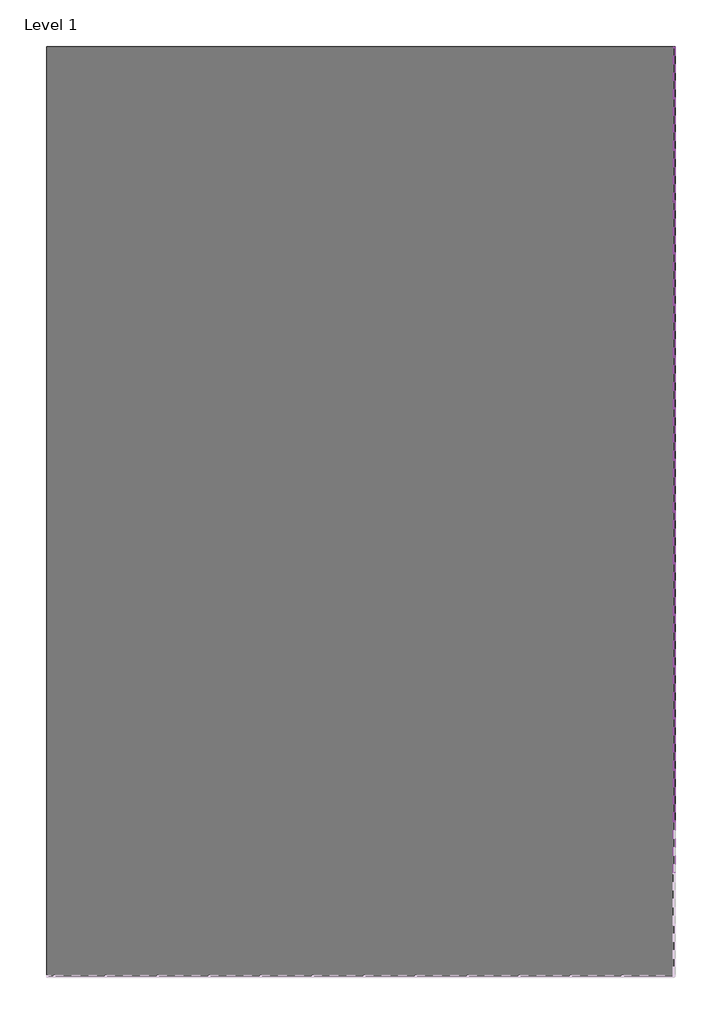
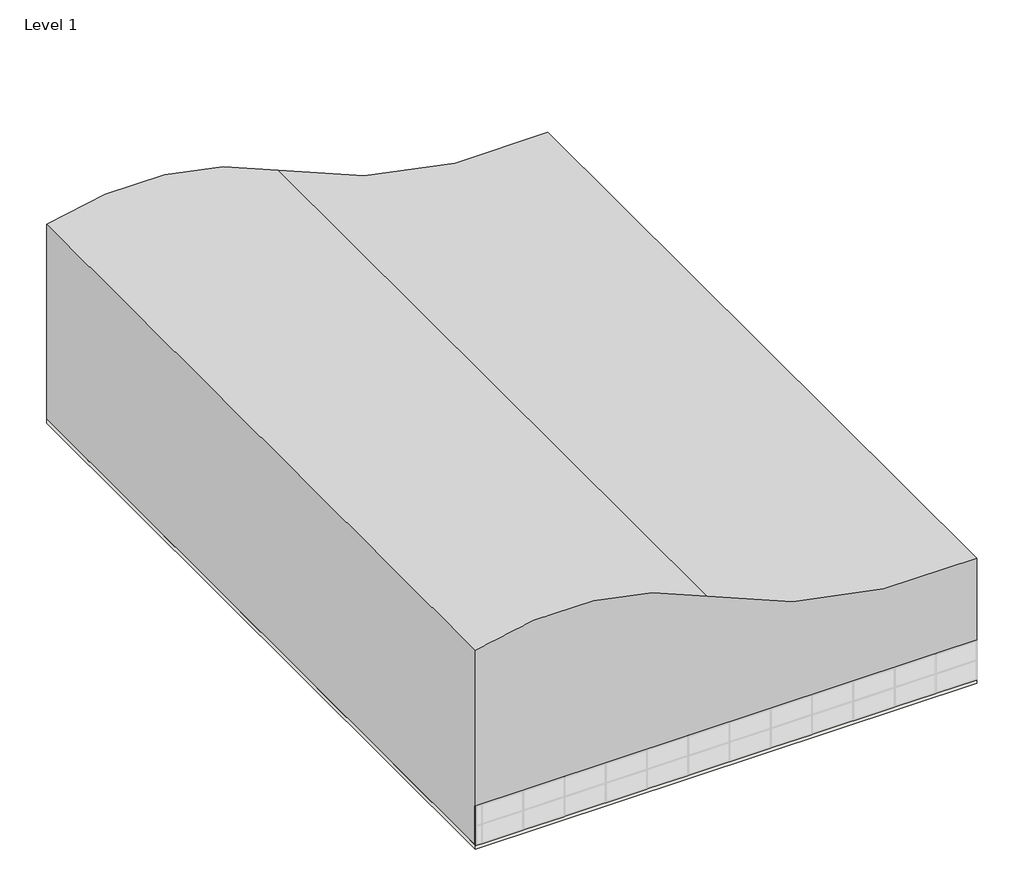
# One storey, part 2 of 2: 79 members, 30 plates, 1 proxy, 1 slab.
"""IFC4 building model written with IfcOpenShell, lengths in millimetres."""

from ifc_helpers import new_model, si_unit, point, frame, frame_2d, origin, place, context, project, spatial, polyline, circle_curve, trimmed, segment, composite_curve, outline, extrude, transform, mapped, element, save
from components import member_8cef0660, member_c65d5026, member_82905deb, member_db480205, member_d9b0607a, member_4491d118, system_panel_glazed_d57e1c1e, system_panel_glazed_3620f98e, system_panel_glazed_88acb840, system_panel_glazed_2a6c68b7

model = new_model("IFC4")

# Units and contexts
model_context = context("Model", 3, world=origin())
ifc_project = project(units=[si_unit("LENGTHUNIT", "METRE", prefix="MILLI")], contexts=[model_context])

# Site, building, storey
site = spatial("IfcSite", under=ifc_project)
building = spatial("IfcBuilding", under=site)
storey = spatial("IfcBuildingStorey", under=building, Name="Level 1", Elevation=0.0)

# Proxy
placement = place(None, origin())
element("IfcBuildingElementProxy", 1, Name="Family1 : Family1", ObjectType="Family1 : Family1", at=placement, inside=storey, context=model_context, shape_type="SweptSolid", body=[
    extrude(outline(composite_curve([segment(trimmed(circle_curve(frame_2d((44089.1499108, -10411.9456671)), 34807.5990296), [point((9448.8, -7003.8511466))], [point((13439.8944284, -26910.1906821))], True, "CARTESIAN"), True, "CONTINUOUS"), segment(trimmed(circle_curve(frame_2d((-6546.8940187, -37668.9163893)), 22698.4997582), [point((13439.8944284, -26910.1906821))], [point((15240.0, -44037.0511466))], False, "CARTESIAN"), True, "CONTINUOUS"), segment(polyline([(15240.0, -44037.0511466), (0.0, -44037.0511466), (0.0, -7003.8511466), (9448.8, -7003.8511466)]), True, "CONTINUOUS")], self_intersect=False)), frame((0.0, -42761.5611797, 0.0), z_axis=(0.0, 1.0, 0.0), x_axis=(0.0, 0.0, 1.0)), (0.0, 0.0, 1.0), 54864.0),
])

# Members
member_shape = member_8cef0660(model_context)
element("IfcMember", 2, ObjectType="Rectangular Mullion : 2.5\" x 5\" rectangular", at=placement, inside=storey, context=model_context, shape_type="MappedRepresentation", body=[
    mapped(member_shape, transform((-7003.8511466, -12313.3111797, 1524.0), x_axis=(0.0, 0.0, 1.0), y_axis=(1.0, 0.0, 0.0), z_axis=(0.0, 1.0, 0.0))),
])
element("IfcMember", 3, ObjectType="Rectangular Mullion : 2.5\" x 5\" rectangular", at=placement, inside=storey, context=model_context, shape_type="MappedRepresentation", body=[
    mapped(member_shape, transform((-7003.8511466, -9265.3111797, 1524.0), x_axis=(0.0, 0.0, 1.0), y_axis=(1.0, 0.0, 0.0), z_axis=(0.0, 1.0, 0.0))),
])
element("IfcMember", 4, ObjectType="Rectangular Mullion : 2.5\" x 5\" rectangular", at=placement, inside=storey, context=model_context, shape_type="MappedRepresentation", body=[
    mapped(member_shape, transform((-7003.8511466, -15361.3111797, 1524.0), x_axis=(0.0, 0.0, 1.0), y_axis=(1.0, 0.0, 0.0), z_axis=(0.0, 1.0, 0.0))),
])
element("IfcMember", 5, ObjectType="Rectangular Mullion : 2.5\" x 5\" rectangular", at=placement, inside=storey, context=model_context, shape_type="MappedRepresentation", body=[
    mapped(member_shape, transform((-7003.8511466, -6217.3111797, 1524.0), x_axis=(0.0, 0.0, 1.0), y_axis=(1.0, 0.0, 0.0), z_axis=(0.0, 1.0, 0.0))),
])
element("IfcMember", 6, ObjectType="Rectangular Mullion : 2.5\" x 5\" rectangular", at=placement, inside=storey, context=model_context, shape_type="MappedRepresentation", body=[
    mapped(member_shape, transform((-7003.8511466, -3169.3111797, 1524.0), x_axis=(0.0, 0.0, 1.0), y_axis=(1.0, 0.0, 0.0), z_axis=(0.0, 1.0, 0.0))),
])
element("IfcMember", 7, ObjectType="Rectangular Mullion : 2.5\" x 5\" rectangular", at=placement, inside=storey, context=model_context, shape_type="MappedRepresentation", body=[
    mapped(member_shape, transform((-7003.8511466, 5974.6888203, 1524.0), x_axis=(0.0, 0.0, 1.0), y_axis=(1.0, 0.0, 0.0), z_axis=(0.0, 1.0, 0.0))),
])
element("IfcMember", 8, ObjectType="Rectangular Mullion : 2.5\" x 5\" rectangular", at=placement, inside=storey, context=model_context, shape_type="MappedRepresentation", body=[
    mapped(member_shape, transform((-7003.8511466, 2926.6888203, 1524.0), x_axis=(0.0, 0.0, 1.0), y_axis=(1.0, 0.0, 0.0), z_axis=(0.0, 1.0, 0.0))),
])
element("IfcMember", 9, ObjectType="Rectangular Mullion : 2.5\" x 5\" rectangular", at=placement, inside=storey, context=model_context, shape_type="MappedRepresentation", body=[
    mapped(member_shape, transform((-7003.8511466, -121.3111797, 1524.0), x_axis=(0.0, 0.0, 1.0), y_axis=(1.0, 0.0, 0.0), z_axis=(0.0, 1.0, 0.0))),
])
element("IfcMember", 10, ObjectType="Rectangular Mullion : 2.5\" x 5\" rectangular", at=placement, inside=storey, context=model_context, shape_type="MappedRepresentation", body=[
    mapped(member_shape, transform((-7003.8511466, 9022.6888203, 1524.0), x_axis=(0.0, 0.0, 1.0), y_axis=(1.0, 0.0, 0.0), z_axis=(0.0, 1.0, 0.0))),
])
element("IfcMember", 11, ObjectType="Rectangular Mullion : 2.5\" x 5\" rectangular", at=placement, inside=storey, context=model_context, shape_type="MappedRepresentation", body=[
    mapped(member_shape, transform((-7003.8511466, -33649.3111797, 3048.0), x_axis=(0.0, 0.0, 1.0), y_axis=(1.0, 0.0, 0.0), z_axis=(0.0, 1.0, 0.0))),
])
element("IfcMember", 12, ObjectType="Rectangular Mullion : 2.5\" x 5\" rectangular", at=placement, inside=storey, context=model_context, shape_type="MappedRepresentation", body=[
    mapped(member_shape, transform((-7003.8511466, -30601.3111797, 3048.0), x_axis=(0.0, 0.0, 1.0), y_axis=(1.0, 0.0, 0.0), z_axis=(0.0, 1.0, 0.0))),
])
element("IfcMember", 13, ObjectType="Rectangular Mullion : 2.5\" x 5\" rectangular", at=placement, inside=storey, context=model_context, shape_type="MappedRepresentation", body=[
    mapped(member_shape, transform((-7003.8511466, -27553.3111797, 3048.0), x_axis=(0.0, 0.0, 1.0), y_axis=(1.0, 0.0, 0.0), z_axis=(0.0, 1.0, 0.0))),
])
element("IfcMember", 14, ObjectType="Rectangular Mullion : 2.5\" x 5\" rectangular", at=placement, inside=storey, context=model_context, shape_type="MappedRepresentation", body=[
    mapped(member_shape, transform((-7003.8511466, -24505.3111797, 3048.0), x_axis=(0.0, 0.0, 1.0), y_axis=(1.0, 0.0, 0.0), z_axis=(0.0, 1.0, 0.0))),
])
element("IfcMember", 15, ObjectType="Rectangular Mullion : 2.5\" x 5\" rectangular", at=placement, inside=storey, context=model_context, shape_type="MappedRepresentation", body=[
    mapped(member_shape, transform((-7003.8511466, -21457.3111797, 3048.0), x_axis=(0.0, 0.0, 1.0), y_axis=(1.0, 0.0, 0.0), z_axis=(0.0, 1.0, 0.0))),
])
element("IfcMember", 16, ObjectType="Rectangular Mullion : 2.5\" x 5\" rectangular", at=placement, inside=storey, context=model_context, shape_type="MappedRepresentation", body=[
    mapped(member_shape, transform((-7003.8511466, -18409.3111797, 3048.0), x_axis=(0.0, 0.0, 1.0), y_axis=(1.0, 0.0, 0.0), z_axis=(0.0, 1.0, 0.0))),
])
element("IfcMember", 17, ObjectType="Rectangular Mullion : 2.5\" x 5\" rectangular", at=placement, inside=storey, context=model_context, shape_type="MappedRepresentation", body=[
    mapped(member_shape, transform((-7003.8511466, -15361.3111797, 3048.0), x_axis=(0.0, 0.0, 1.0), y_axis=(1.0, 0.0, 0.0), z_axis=(0.0, 1.0, 0.0))),
])
element("IfcMember", 18, ObjectType="Rectangular Mullion : 2.5\" x 5\" rectangular", at=placement, inside=storey, context=model_context, shape_type="MappedRepresentation", body=[
    mapped(member_shape, transform((-7003.8511466, -12313.3111797, 3048.0), x_axis=(0.0, 0.0, 1.0), y_axis=(1.0, 0.0, 0.0), z_axis=(0.0, 1.0, 0.0))),
])
element("IfcMember", 19, ObjectType="Rectangular Mullion : 2.5\" x 5\" rectangular", at=placement, inside=storey, context=model_context, shape_type="MappedRepresentation", body=[
    mapped(member_shape, transform((-7003.8511466, -9265.3111797, 3048.0), x_axis=(0.0, 0.0, 1.0), y_axis=(1.0, 0.0, 0.0), z_axis=(0.0, 1.0, 0.0))),
])
element("IfcMember", 20, ObjectType="Rectangular Mullion : 2.5\" x 5\" rectangular", at=placement, inside=storey, context=model_context, shape_type="MappedRepresentation", body=[
    mapped(member_shape, transform((-7003.8511466, -6217.3111797, 3048.0), x_axis=(0.0, 0.0, 1.0), y_axis=(1.0, 0.0, 0.0), z_axis=(0.0, 1.0, 0.0))),
])
element("IfcMember", 21, ObjectType="Rectangular Mullion : 2.5\" x 5\" rectangular", at=placement, inside=storey, context=model_context, shape_type="MappedRepresentation", body=[
    mapped(member_shape, transform((-7003.8511466, -3169.3111797, 3048.0), x_axis=(0.0, 0.0, 1.0), y_axis=(1.0, 0.0, 0.0), z_axis=(0.0, 1.0, 0.0))),
])
element("IfcMember", 22, ObjectType="Rectangular Mullion : 2.5\" x 5\" rectangular", at=placement, inside=storey, context=model_context, shape_type="MappedRepresentation", body=[
    mapped(member_shape, transform((-7003.8511466, -121.3111797, 3048.0), x_axis=(0.0, 0.0, 1.0), y_axis=(1.0, 0.0, 0.0), z_axis=(0.0, 1.0, 0.0))),
])
element("IfcMember", 23, ObjectType="Rectangular Mullion : 2.5\" x 5\" rectangular", at=placement, inside=storey, context=model_context, shape_type="MappedRepresentation", body=[
    mapped(member_shape, transform((-7003.8511466, 2926.6888203, 3048.0), x_axis=(0.0, 0.0, 1.0), y_axis=(1.0, 0.0, 0.0), z_axis=(0.0, 1.0, 0.0))),
])
element("IfcMember", 24, ObjectType="Rectangular Mullion : 2.5\" x 5\" rectangular", at=placement, inside=storey, context=model_context, shape_type="MappedRepresentation", body=[
    mapped(member_shape, transform((-7003.8511466, 5974.6888203, 3048.0), x_axis=(0.0, 0.0, 1.0), y_axis=(1.0, 0.0, 0.0), z_axis=(0.0, 1.0, 0.0))),
])
element("IfcMember", 25, ObjectType="Rectangular Mullion : 2.5\" x 5\" rectangular", at=placement, inside=storey, context=model_context, shape_type="MappedRepresentation", body=[
    mapped(member_shape, transform((-7003.8511466, 9022.6888203, 3048.0), x_axis=(0.0, 0.0, 1.0), y_axis=(1.0, 0.0, 0.0), z_axis=(0.0, 1.0, 0.0))),
])
element("IfcMember", 26, ObjectType="Rectangular Mullion : 2.5\" x 5\" rectangular", at=placement, inside=storey, context=model_context, shape_type="MappedRepresentation", body=[
    mapped(member_shape, transform((-7003.8511466, -33649.3111797, 1524.0), x_axis=(0.0, 0.0, 1.0), y_axis=(1.0, 0.0, 0.0), z_axis=(0.0, 1.0, 0.0))),
])
element("IfcMember", 27, ObjectType="Rectangular Mullion : 2.5\" x 5\" rectangular", at=placement, inside=storey, context=model_context, shape_type="MappedRepresentation", body=[
    mapped(member_shape, transform((-7003.8511466, -30601.3111797, 1524.0), x_axis=(0.0, 0.0, 1.0), y_axis=(1.0, 0.0, 0.0), z_axis=(0.0, 1.0, 0.0))),
])
element("IfcMember", 28, ObjectType="Rectangular Mullion : 2.5\" x 5\" rectangular", at=placement, inside=storey, context=model_context, shape_type="MappedRepresentation", body=[
    mapped(member_shape, transform((-7003.8511466, -27553.3111797, 1524.0), x_axis=(0.0, 0.0, 1.0), y_axis=(1.0, 0.0, 0.0), z_axis=(0.0, 1.0, 0.0))),
])
element("IfcMember", 29, ObjectType="Rectangular Mullion : 2.5\" x 5\" rectangular", at=placement, inside=storey, context=model_context, shape_type="MappedRepresentation", body=[
    mapped(member_shape, transform((-7003.8511466, -24505.3111797, 1524.0), x_axis=(0.0, 0.0, 1.0), y_axis=(1.0, 0.0, 0.0), z_axis=(0.0, 1.0, 0.0))),
])
element("IfcMember", 30, ObjectType="Rectangular Mullion : 2.5\" x 5\" rectangular", at=placement, inside=storey, context=model_context, shape_type="MappedRepresentation", body=[
    mapped(member_shape, transform((-7003.8511466, -21457.3111797, 1524.0), x_axis=(0.0, 0.0, 1.0), y_axis=(1.0, 0.0, 0.0), z_axis=(0.0, 1.0, 0.0))),
])
element("IfcMember", 31, ObjectType="Rectangular Mullion : 2.5\" x 5\" rectangular", at=placement, inside=storey, context=model_context, shape_type="MappedRepresentation", body=[
    mapped(member_shape, transform((-7003.8511466, -18409.3111797, 1524.0), x_axis=(0.0, 0.0, 1.0), y_axis=(1.0, 0.0, 0.0), z_axis=(0.0, 1.0, 0.0))),
])
member_2_shape = member_c65d5026(model_context)
element("IfcMember", 32, ObjectType="Rectangular Mullion : 2.5\" x 5\" rectangular", at=placement, inside=storey, context=model_context, shape_type="MappedRepresentation", body=[
    mapped(member_2_shape, transform((-7003.8511466, 12038.9388203, 1524.0), x_axis=(0.0, 0.0, 1.0), y_axis=(1.0, 0.0, 0.0), z_axis=(0.0, 1.0, 0.0))),
])
element("IfcMember", 33, ObjectType="Rectangular Mullion : 2.5\" x 5\" rectangular", at=placement, inside=storey, context=model_context, shape_type="MappedRepresentation", body=[
    mapped(member_2_shape, transform((-7003.8511466, 12038.9388203, 3048.0), x_axis=(0.0, 0.0, 1.0), y_axis=(1.0, 0.0, 0.0), z_axis=(0.0, 1.0, 0.0))),
])
member_3_shape = member_82905deb(model_context)
element("IfcMember", 34, ObjectType="Rectangular Mullion : 2.5\" x 5\" rectangular", at=placement, inside=storey, context=model_context, shape_type="MappedRepresentation", body=[
    mapped(member_3_shape, transform((-7003.8511466, -18377.5611797, 3048.0), x_axis=(0.0, -1.0, 0.0), y_axis=(1.0, 0.0, 0.0), z_axis=(0.0, 0.0, 1.0))),
])
element("IfcMember", 35, ObjectType="Rectangular Mullion : 2.5\" x 5\" rectangular", at=placement, inside=storey, context=model_context, shape_type="MappedRepresentation", body=[
    mapped(member_3_shape, transform((-7003.8511466, -15329.5611797, 3048.0), x_axis=(0.0, -1.0, 0.0), y_axis=(1.0, 0.0, 0.0), z_axis=(0.0, 0.0, 1.0))),
])
element("IfcMember", 36, ObjectType="Rectangular Mullion : 2.5\" x 5\" rectangular", at=placement, inside=storey, context=model_context, shape_type="MappedRepresentation", body=[
    mapped(member_3_shape, transform((-7003.8511466, -12281.5611797, 3048.0), x_axis=(0.0, -1.0, 0.0), y_axis=(1.0, 0.0, 0.0), z_axis=(0.0, 0.0, 1.0))),
])
element("IfcMember", 37, ObjectType="Rectangular Mullion : 2.5\" x 5\" rectangular", at=placement, inside=storey, context=model_context, shape_type="MappedRepresentation", body=[
    mapped(member_3_shape, transform((-7003.8511466, -9233.5611797, 3048.0), x_axis=(0.0, -1.0, 0.0), y_axis=(1.0, 0.0, 0.0), z_axis=(0.0, 0.0, 1.0))),
])
element("IfcMember", 38, ObjectType="Rectangular Mullion : 2.5\" x 5\" rectangular", at=placement, inside=storey, context=model_context, shape_type="MappedRepresentation", body=[
    mapped(member_3_shape, transform((-7003.8511466, -6185.5611797, 3048.0), x_axis=(0.0, -1.0, 0.0), y_axis=(1.0, 0.0, 0.0), z_axis=(0.0, 0.0, 1.0))),
])
element("IfcMember", 39, ObjectType="Rectangular Mullion : 2.5\" x 5\" rectangular", at=placement, inside=storey, context=model_context, shape_type="MappedRepresentation", body=[
    mapped(member_3_shape, transform((-7003.8511466, -3137.5611797, 3048.0), x_axis=(0.0, -1.0, 0.0), y_axis=(1.0, 0.0, 0.0), z_axis=(0.0, 0.0, 1.0))),
])
element("IfcMember", 40, ObjectType="Rectangular Mullion : 2.5\" x 5\" rectangular", at=placement, inside=storey, context=model_context, shape_type="MappedRepresentation", body=[
    mapped(member_3_shape, transform((-7003.8511466, -89.5611797, 3048.0), x_axis=(0.0, -1.0, 0.0), y_axis=(1.0, 0.0, 0.0), z_axis=(0.0, 0.0, 1.0))),
])
element("IfcMember", 41, ObjectType="Rectangular Mullion : 2.5\" x 5\" rectangular", at=placement, inside=storey, context=model_context, shape_type="MappedRepresentation", body=[
    mapped(member_3_shape, transform((-7003.8511466, 2958.4388203, 3048.0), x_axis=(0.0, -1.0, 0.0), y_axis=(1.0, 0.0, 0.0), z_axis=(0.0, 0.0, 1.0))),
])
element("IfcMember", 42, ObjectType="Rectangular Mullion : 2.5\" x 5\" rectangular", at=placement, inside=storey, context=model_context, shape_type="MappedRepresentation", body=[
    mapped(member_3_shape, transform((-7003.8511466, 6006.4388203, 3048.0), x_axis=(0.0, -1.0, 0.0), y_axis=(1.0, 0.0, 0.0), z_axis=(0.0, 0.0, 1.0))),
])
element("IfcMember", 43, ObjectType="Rectangular Mullion : 2.5\" x 5\" rectangular", at=placement, inside=storey, context=model_context, shape_type="MappedRepresentation", body=[
    mapped(member_3_shape, transform((-7003.8511466, 9054.4388203, 3048.0), x_axis=(0.0, -1.0, 0.0), y_axis=(1.0, 0.0, 0.0), z_axis=(0.0, 0.0, 1.0))),
])
element("IfcMember", 44, ObjectType="Rectangular Mullion : 2.5\" x 5\" rectangular", at=placement, inside=storey, context=model_context, shape_type="MappedRepresentation", body=[
    mapped(member_3_shape, transform((-7003.8511466, -30569.5611797, 3048.0), x_axis=(0.0, -1.0, 0.0), y_axis=(1.0, 0.0, 0.0), z_axis=(0.0, 0.0, 1.0))),
])
element("IfcMember", 45, ObjectType="Rectangular Mullion : 2.5\" x 5\" rectangular", at=placement, inside=storey, context=model_context, shape_type="MappedRepresentation", body=[
    mapped(member_3_shape, transform((-7003.8511466, -27521.5611797, 3048.0), x_axis=(0.0, -1.0, 0.0), y_axis=(1.0, 0.0, 0.0), z_axis=(0.0, 0.0, 1.0))),
])
element("IfcMember", 46, ObjectType="Rectangular Mullion : 2.5\" x 5\" rectangular", at=placement, inside=storey, context=model_context, shape_type="MappedRepresentation", body=[
    mapped(member_3_shape, transform((-7003.8511466, -24473.5611797, 3048.0), x_axis=(0.0, -1.0, 0.0), y_axis=(1.0, 0.0, 0.0), z_axis=(0.0, 0.0, 1.0))),
])
element("IfcMember", 47, ObjectType="Rectangular Mullion : 2.5\" x 5\" rectangular", at=placement, inside=storey, context=model_context, shape_type="MappedRepresentation", body=[
    mapped(member_3_shape, transform((-7003.8511466, -21425.5611797, 3048.0), x_axis=(0.0, -1.0, 0.0), y_axis=(1.0, 0.0, 0.0), z_axis=(0.0, 0.0, 1.0))),
])
element("IfcMember", 48, ObjectType="Rectangular Mullion : 2.5\" x 5\" rectangular", at=placement, inside=storey, context=model_context, shape_type="MappedRepresentation", body=[
    mapped(member_3_shape, transform((-7003.8511466, -33617.5611797, 3048.0), x_axis=(0.0, -1.0, 0.0), y_axis=(1.0, 0.0, 0.0), z_axis=(0.0, 0.0, 1.0))),
])
element("IfcMember", 49, ObjectType="Rectangular Mullion : 2.5\" x 5\" rectangular", at=placement, inside=storey, context=model_context, shape_type="MappedRepresentation", body=[
    mapped(member_3_shape, transform((-7003.8511466, -18377.5611797, 1524.0), x_axis=(0.0, -1.0, 0.0), y_axis=(1.0, 0.0, 0.0), z_axis=(0.0, 0.0, 1.0))),
])
element("IfcMember", 50, ObjectType="Rectangular Mullion : 2.5\" x 5\" rectangular", at=placement, inside=storey, context=model_context, shape_type="MappedRepresentation", body=[
    mapped(member_3_shape, transform((-7003.8511466, -15329.5611797, 1524.0), x_axis=(0.0, -1.0, 0.0), y_axis=(1.0, 0.0, 0.0), z_axis=(0.0, 0.0, 1.0))),
])
element("IfcMember", 51, ObjectType="Rectangular Mullion : 2.5\" x 5\" rectangular", at=placement, inside=storey, context=model_context, shape_type="MappedRepresentation", body=[
    mapped(member_3_shape, transform((-7003.8511466, -12281.5611797, 1524.0), x_axis=(0.0, -1.0, 0.0), y_axis=(1.0, 0.0, 0.0), z_axis=(0.0, 0.0, 1.0))),
])
element("IfcMember", 52, ObjectType="Rectangular Mullion : 2.5\" x 5\" rectangular", at=placement, inside=storey, context=model_context, shape_type="MappedRepresentation", body=[
    mapped(member_3_shape, transform((-7003.8511466, -9233.5611797, 1524.0), x_axis=(0.0, -1.0, 0.0), y_axis=(1.0, 0.0, 0.0), z_axis=(0.0, 0.0, 1.0))),
])
element("IfcMember", 53, ObjectType="Rectangular Mullion : 2.5\" x 5\" rectangular", at=placement, inside=storey, context=model_context, shape_type="MappedRepresentation", body=[
    mapped(member_3_shape, transform((-7003.8511466, -6185.5611797, 1524.0), x_axis=(0.0, -1.0, 0.0), y_axis=(1.0, 0.0, 0.0), z_axis=(0.0, 0.0, 1.0))),
])
element("IfcMember", 54, ObjectType="Rectangular Mullion : 2.5\" x 5\" rectangular", at=placement, inside=storey, context=model_context, shape_type="MappedRepresentation", body=[
    mapped(member_3_shape, transform((-7003.8511466, -3137.5611797, 1524.0), x_axis=(0.0, -1.0, 0.0), y_axis=(1.0, 0.0, 0.0), z_axis=(0.0, 0.0, 1.0))),
])
element("IfcMember", 55, ObjectType="Rectangular Mullion : 2.5\" x 5\" rectangular", at=placement, inside=storey, context=model_context, shape_type="MappedRepresentation", body=[
    mapped(member_3_shape, transform((-7003.8511466, -89.5611797, 1524.0), x_axis=(0.0, -1.0, 0.0), y_axis=(1.0, 0.0, 0.0), z_axis=(0.0, 0.0, 1.0))),
])
element("IfcMember", 56, ObjectType="Rectangular Mullion : 2.5\" x 5\" rectangular", at=placement, inside=storey, context=model_context, shape_type="MappedRepresentation", body=[
    mapped(member_3_shape, transform((-7003.8511466, 2958.4388203, 1524.0), x_axis=(0.0, -1.0, 0.0), y_axis=(1.0, 0.0, 0.0), z_axis=(0.0, 0.0, 1.0))),
])
element("IfcMember", 57, ObjectType="Rectangular Mullion : 2.5\" x 5\" rectangular", at=placement, inside=storey, context=model_context, shape_type="MappedRepresentation", body=[
    mapped(member_3_shape, transform((-7003.8511466, 6006.4388203, 1524.0), x_axis=(0.0, -1.0, 0.0), y_axis=(1.0, 0.0, 0.0), z_axis=(0.0, 0.0, 1.0))),
])
element("IfcMember", 58, ObjectType="Rectangular Mullion : 2.5\" x 5\" rectangular", at=placement, inside=storey, context=model_context, shape_type="MappedRepresentation", body=[
    mapped(member_3_shape, transform((-7003.8511466, 9054.4388203, 1524.0), x_axis=(0.0, -1.0, 0.0), y_axis=(1.0, 0.0, 0.0), z_axis=(0.0, 0.0, 1.0))),
])
element("IfcMember", 59, ObjectType="Rectangular Mullion : 2.5\" x 5\" rectangular", at=placement, inside=storey, context=model_context, shape_type="MappedRepresentation", body=[
    mapped(member_3_shape, transform((-7003.8511466, -30569.5611797, 1524.0), x_axis=(0.0, -1.0, 0.0), y_axis=(1.0, 0.0, 0.0), z_axis=(0.0, 0.0, 1.0))),
])
element("IfcMember", 60, ObjectType="Rectangular Mullion : 2.5\" x 5\" rectangular", at=placement, inside=storey, context=model_context, shape_type="MappedRepresentation", body=[
    mapped(member_3_shape, transform((-7003.8511466, -27521.5611797, 1524.0), x_axis=(0.0, -1.0, 0.0), y_axis=(1.0, 0.0, 0.0), z_axis=(0.0, 0.0, 1.0))),
])
element("IfcMember", 61, ObjectType="Rectangular Mullion : 2.5\" x 5\" rectangular", at=placement, inside=storey, context=model_context, shape_type="MappedRepresentation", body=[
    mapped(member_3_shape, transform((-7003.8511466, -24473.5611797, 1524.0), x_axis=(0.0, -1.0, 0.0), y_axis=(1.0, 0.0, 0.0), z_axis=(0.0, 0.0, 1.0))),
])
element("IfcMember", 62, ObjectType="Rectangular Mullion : 2.5\" x 5\" rectangular", at=placement, inside=storey, context=model_context, shape_type="MappedRepresentation", body=[
    mapped(member_3_shape, transform((-7003.8511466, -21425.5611797, 1524.0), x_axis=(0.0, -1.0, 0.0), y_axis=(1.0, 0.0, 0.0), z_axis=(0.0, 0.0, 1.0))),
])
element("IfcMember", 63, ObjectType="Rectangular Mullion : 2.5\" x 5\" rectangular", at=placement, inside=storey, context=model_context, shape_type="MappedRepresentation", body=[
    mapped(member_3_shape, transform((-7003.8511466, -33617.5611797, 1524.0), x_axis=(0.0, -1.0, 0.0), y_axis=(1.0, 0.0, 0.0), z_axis=(0.0, 0.0, 1.0))),
])
member_4_shape = member_db480205(model_context)
element("IfcMember", 64, ObjectType="Rectangular Mullion : 2.5\" x 5\" rectangular", at=placement, inside=storey, context=model_context, shape_type="MappedRepresentation", body=[
    mapped(member_4_shape, transform((-7003.8511466, -33585.8111797, 0.0), x_axis=(0.0, 0.0, -1.0), y_axis=(1.0, 0.0, 0.0), z_axis=(0.0, -1.0, 0.0))),
])
element("IfcMember", 65, ObjectType="Rectangular Mullion : 2.5\" x 5\" rectangular", at=placement, inside=storey, context=model_context, shape_type="MappedRepresentation", body=[
    mapped(member_4_shape, transform((-7003.8511466, -30537.8111797, 0.0), x_axis=(0.0, 0.0, -1.0), y_axis=(1.0, 0.0, 0.0), z_axis=(0.0, -1.0, 0.0))),
])
element("IfcMember", 66, ObjectType="Rectangular Mullion : 2.5\" x 5\" rectangular", at=placement, inside=storey, context=model_context, shape_type="MappedRepresentation", body=[
    mapped(member_4_shape, transform((-7003.8511466, -27489.8111797, 0.0), x_axis=(0.0, 0.0, -1.0), y_axis=(1.0, 0.0, 0.0), z_axis=(0.0, -1.0, 0.0))),
])
element("IfcMember", 67, ObjectType="Rectangular Mullion : 2.5\" x 5\" rectangular", at=placement, inside=storey, context=model_context, shape_type="MappedRepresentation", body=[
    mapped(member_4_shape, transform((-7003.8511466, -24441.8111797, 0.0), x_axis=(0.0, 0.0, -1.0), y_axis=(1.0, 0.0, 0.0), z_axis=(0.0, -1.0, 0.0))),
])
element("IfcMember", 68, ObjectType="Rectangular Mullion : 2.5\" x 5\" rectangular", at=placement, inside=storey, context=model_context, shape_type="MappedRepresentation", body=[
    mapped(member_4_shape, transform((-7003.8511466, -21393.8111797, 0.0), x_axis=(0.0, 0.0, -1.0), y_axis=(1.0, 0.0, 0.0), z_axis=(0.0, -1.0, 0.0))),
])
element("IfcMember", 69, ObjectType="Rectangular Mullion : 2.5\" x 5\" rectangular", at=placement, inside=storey, context=model_context, shape_type="MappedRepresentation", body=[
    mapped(member_4_shape, transform((-7003.8511466, -18345.8111797, 0.0), x_axis=(0.0, 0.0, -1.0), y_axis=(1.0, 0.0, 0.0), z_axis=(0.0, -1.0, 0.0))),
])
element("IfcMember", 70, ObjectType="Rectangular Mullion : 2.5\" x 5\" rectangular", at=placement, inside=storey, context=model_context, shape_type="MappedRepresentation", body=[
    mapped(member_4_shape, transform((-7003.8511466, -15297.8111797, 0.0), x_axis=(0.0, 0.0, -1.0), y_axis=(1.0, 0.0, 0.0), z_axis=(0.0, -1.0, 0.0))),
])
element("IfcMember", 71, ObjectType="Rectangular Mullion : 2.5\" x 5\" rectangular", at=placement, inside=storey, context=model_context, shape_type="MappedRepresentation", body=[
    mapped(member_4_shape, transform((-7003.8511466, -12249.8111797, 0.0), x_axis=(0.0, 0.0, -1.0), y_axis=(1.0, 0.0, 0.0), z_axis=(0.0, -1.0, 0.0))),
])
element("IfcMember", 72, ObjectType="Rectangular Mullion : 2.5\" x 5\" rectangular", at=placement, inside=storey, context=model_context, shape_type="MappedRepresentation", body=[
    mapped(member_4_shape, transform((-7003.8511466, -9201.8111797, 0.0), x_axis=(0.0, 0.0, -1.0), y_axis=(1.0, 0.0, 0.0), z_axis=(0.0, -1.0, 0.0))),
])
element("IfcMember", 73, ObjectType="Rectangular Mullion : 2.5\" x 5\" rectangular", at=placement, inside=storey, context=model_context, shape_type="MappedRepresentation", body=[
    mapped(member_4_shape, transform((-7003.8511466, -6153.8111797, 0.0), x_axis=(0.0, 0.0, -1.0), y_axis=(1.0, 0.0, 0.0), z_axis=(0.0, -1.0, 0.0))),
])
element("IfcMember", 74, ObjectType="Rectangular Mullion : 2.5\" x 5\" rectangular", at=placement, inside=storey, context=model_context, shape_type="MappedRepresentation", body=[
    mapped(member_4_shape, transform((-7003.8511466, -3105.8111797, 0.0), x_axis=(0.0, 0.0, -1.0), y_axis=(1.0, 0.0, 0.0), z_axis=(0.0, -1.0, 0.0))),
])
element("IfcMember", 75, ObjectType="Rectangular Mullion : 2.5\" x 5\" rectangular", at=placement, inside=storey, context=model_context, shape_type="MappedRepresentation", body=[
    mapped(member_4_shape, transform((-7003.8511466, -57.8111797, 0.0), x_axis=(0.0, 0.0, -1.0), y_axis=(1.0, 0.0, 0.0), z_axis=(0.0, -1.0, 0.0))),
])
element("IfcMember", 76, ObjectType="Rectangular Mullion : 2.5\" x 5\" rectangular", at=placement, inside=storey, context=model_context, shape_type="MappedRepresentation", body=[
    mapped(member_4_shape, transform((-7003.8511466, 2990.1888203, 0.0), x_axis=(0.0, 0.0, -1.0), y_axis=(1.0, 0.0, 0.0), z_axis=(0.0, -1.0, 0.0))),
])
element("IfcMember", 77, ObjectType="Rectangular Mullion : 2.5\" x 5\" rectangular", at=placement, inside=storey, context=model_context, shape_type="MappedRepresentation", body=[
    mapped(member_4_shape, transform((-7003.8511466, 6038.1888203, 0.0), x_axis=(0.0, 0.0, -1.0), y_axis=(1.0, 0.0, 0.0), z_axis=(0.0, -1.0, 0.0))),
])
member_5_shape = member_d9b0607a(model_context)
element("IfcMember", 78, ObjectType="Rectangular Mullion : 2.5\" x 5\" rectangular", at=placement, inside=storey, context=model_context, shape_type="MappedRepresentation", body=[
    mapped(member_5_shape, transform((-7003.8511466, 9086.1888203, 0.0), x_axis=(0.0, 0.0, -1.0), y_axis=(1.0, 0.0, 0.0), z_axis=(0.0, -1.0, 0.0))),
])
member_6_shape = member_4491d118(model_context)
element("IfcMember", 79, ObjectType="Rectangular Mullion : 2.5\" x 5\" rectangular", at=placement, inside=storey, context=model_context, shape_type="MappedRepresentation", body=[
    mapped(member_6_shape, transform((-7003.8511466, 12102.4388203, 1524.0), x_axis=(0.0, 1.0, 0.0), y_axis=(1.0, 0.0, 0.0), z_axis=(0.0, 0.0, -1.0))),
])
element("IfcMember", 80, ObjectType="Rectangular Mullion : 2.5\" x 5\" rectangular", at=placement, inside=storey, context=model_context, shape_type="MappedRepresentation", body=[
    mapped(member_6_shape, transform((-7003.8511466, 12102.4388203, 0.0), x_axis=(0.0, 1.0, 0.0), y_axis=(1.0, 0.0, 0.0), z_axis=(0.0, 0.0, -1.0))),
])

# Plates
system_panel_glazed_shape = system_panel_glazed_d57e1c1e(model_context)
element("IfcPlate", 81, ObjectType="System Panel : Glazed", at=placement, inside=storey, context=model_context, shape_type="MappedRepresentation", body=[
    mapped(system_panel_glazed_shape, transform((-7003.8511466, 10562.5638203, 63.5), x_axis=(0.0, -1.0, 0.0), y_axis=(1.0, 0.0, 0.0), z_axis=(0.0, 0.0, 1.0))),
])
system_panel_glazed_2_shape = system_panel_glazed_3620f98e(model_context)
element("IfcPlate", 82, ObjectType="System Panel : Glazed", at=placement, inside=storey, context=model_context, shape_type="MappedRepresentation", body=[
    mapped(system_panel_glazed_2_shape, transform((-7003.8511466, 7530.4388203, 63.5), x_axis=(0.0, -1.0, 0.0), y_axis=(1.0, 0.0, 0.0), z_axis=(0.0, 0.0, 1.0))),
])
element("IfcPlate", 83, ObjectType="System Panel : Glazed", at=placement, inside=storey, context=model_context, shape_type="MappedRepresentation", body=[
    mapped(system_panel_glazed_2_shape, transform((-7003.8511466, 4482.4388203, 63.5), x_axis=(0.0, -1.0, 0.0), y_axis=(1.0, 0.0, 0.0), z_axis=(0.0, 0.0, 1.0))),
])
element("IfcPlate", 84, ObjectType="System Panel : Glazed", at=placement, inside=storey, context=model_context, shape_type="MappedRepresentation", body=[
    mapped(system_panel_glazed_2_shape, transform((-7003.8511466, 1434.4388203, 63.5), x_axis=(0.0, -1.0, 0.0), y_axis=(1.0, 0.0, 0.0), z_axis=(0.0, 0.0, 1.0))),
])
element("IfcPlate", 85, ObjectType="System Panel : Glazed", at=placement, inside=storey, context=model_context, shape_type="MappedRepresentation", body=[
    mapped(system_panel_glazed_2_shape, transform((-7003.8511466, -1613.5611797, 63.5), x_axis=(0.0, -1.0, 0.0), y_axis=(1.0, 0.0, 0.0), z_axis=(0.0, 0.0, 1.0))),
])
element("IfcPlate", 86, ObjectType="System Panel : Glazed", at=placement, inside=storey, context=model_context, shape_type="MappedRepresentation", body=[
    mapped(system_panel_glazed_2_shape, transform((-7003.8511466, -4661.5611797, 63.5), x_axis=(0.0, -1.0, 0.0), y_axis=(1.0, 0.0, 0.0), z_axis=(0.0, 0.0, 1.0))),
])
element("IfcPlate", 87, ObjectType="System Panel : Glazed", at=placement, inside=storey, context=model_context, shape_type="MappedRepresentation", body=[
    mapped(system_panel_glazed_2_shape, transform((-7003.8511466, -7709.5611797, 63.5), x_axis=(0.0, -1.0, 0.0), y_axis=(1.0, 0.0, 0.0), z_axis=(0.0, 0.0, 1.0))),
])
element("IfcPlate", 88, ObjectType="System Panel : Glazed", at=placement, inside=storey, context=model_context, shape_type="MappedRepresentation", body=[
    mapped(system_panel_glazed_2_shape, transform((-7003.8511466, -10757.5611797, 63.5), x_axis=(0.0, -1.0, 0.0), y_axis=(1.0, 0.0, 0.0), z_axis=(0.0, 0.0, 1.0))),
])
element("IfcPlate", 89, ObjectType="System Panel : Glazed", at=placement, inside=storey, context=model_context, shape_type="MappedRepresentation", body=[
    mapped(system_panel_glazed_2_shape, transform((-7003.8511466, -13805.5611797, 63.5), x_axis=(0.0, -1.0, 0.0), y_axis=(1.0, 0.0, 0.0), z_axis=(0.0, 0.0, 1.0))),
])
element("IfcPlate", 90, ObjectType="System Panel : Glazed", at=placement, inside=storey, context=model_context, shape_type="MappedRepresentation", body=[
    mapped(system_panel_glazed_2_shape, transform((-7003.8511466, -16853.5611797, 63.5), x_axis=(0.0, -1.0, 0.0), y_axis=(1.0, 0.0, 0.0), z_axis=(0.0, 0.0, 1.0))),
])
element("IfcPlate", 91, ObjectType="System Panel : Glazed", at=placement, inside=storey, context=model_context, shape_type="MappedRepresentation", body=[
    mapped(system_panel_glazed_2_shape, transform((-7003.8511466, -19901.5611797, 63.5), x_axis=(0.0, -1.0, 0.0), y_axis=(1.0, 0.0, 0.0), z_axis=(0.0, 0.0, 1.0))),
])
element("IfcPlate", 92, ObjectType="System Panel : Glazed", at=placement, inside=storey, context=model_context, shape_type="MappedRepresentation", body=[
    mapped(system_panel_glazed_2_shape, transform((-7003.8511466, -22949.5611797, 63.5), x_axis=(0.0, -1.0, 0.0), y_axis=(1.0, 0.0, 0.0), z_axis=(0.0, 0.0, 1.0))),
])
element("IfcPlate", 93, ObjectType="System Panel : Glazed", at=placement, inside=storey, context=model_context, shape_type="MappedRepresentation", body=[
    mapped(system_panel_glazed_2_shape, transform((-7003.8511466, -25997.5611797, 63.5), x_axis=(0.0, -1.0, 0.0), y_axis=(1.0, 0.0, 0.0), z_axis=(0.0, 0.0, 1.0))),
])
element("IfcPlate", 94, ObjectType="System Panel : Glazed", at=placement, inside=storey, context=model_context, shape_type="MappedRepresentation", body=[
    mapped(system_panel_glazed_2_shape, transform((-7003.8511466, -29045.5611797, 63.5), x_axis=(0.0, -1.0, 0.0), y_axis=(1.0, 0.0, 0.0), z_axis=(0.0, 0.0, 1.0))),
])
element("IfcPlate", 95, ObjectType="System Panel : Glazed", at=placement, inside=storey, context=model_context, shape_type="MappedRepresentation", body=[
    mapped(system_panel_glazed_2_shape, transform((-7003.8511466, -32093.5611797, 63.5), x_axis=(0.0, -1.0, 0.0), y_axis=(1.0, 0.0, 0.0), z_axis=(0.0, 0.0, 1.0))),
])
system_panel_glazed_3_shape = system_panel_glazed_88acb840(model_context)
element("IfcPlate", 96, ObjectType="System Panel : Glazed", at=placement, inside=storey, context=model_context, shape_type="MappedRepresentation", body=[
    mapped(system_panel_glazed_3_shape, transform((-7003.8511466, 10562.5638203, 1555.75), x_axis=(0.0, -1.0, 0.0), y_axis=(1.0, 0.0, 0.0), z_axis=(0.0, 0.0, 1.0))),
])
system_panel_glazed_4_shape = system_panel_glazed_2a6c68b7(model_context)
element("IfcPlate", 97, ObjectType="System Panel : Glazed", at=placement, inside=storey, context=model_context, shape_type="MappedRepresentation", body=[
    mapped(system_panel_glazed_4_shape, transform((-7003.8511466, 7530.4388203, 1555.75), x_axis=(0.0, -1.0, 0.0), y_axis=(1.0, 0.0, 0.0), z_axis=(0.0, 0.0, 1.0))),
])
element("IfcPlate", 98, ObjectType="System Panel : Glazed", at=placement, inside=storey, context=model_context, shape_type="MappedRepresentation", body=[
    mapped(system_panel_glazed_4_shape, transform((-7003.8511466, 4482.4388203, 1555.75), x_axis=(0.0, -1.0, 0.0), y_axis=(1.0, 0.0, 0.0), z_axis=(0.0, 0.0, 1.0))),
])
element("IfcPlate", 99, ObjectType="System Panel : Glazed", at=placement, inside=storey, context=model_context, shape_type="MappedRepresentation", body=[
    mapped(system_panel_glazed_4_shape, transform((-7003.8511466, 1434.4388203, 1555.75), x_axis=(0.0, -1.0, 0.0), y_axis=(1.0, 0.0, 0.0), z_axis=(0.0, 0.0, 1.0))),
])
element("IfcPlate", 100, ObjectType="System Panel : Glazed", at=placement, inside=storey, context=model_context, shape_type="MappedRepresentation", body=[
    mapped(system_panel_glazed_4_shape, transform((-7003.8511466, -1613.5611797, 1555.75), x_axis=(0.0, -1.0, 0.0), y_axis=(1.0, 0.0, 0.0), z_axis=(0.0, 0.0, 1.0))),
])
element("IfcPlate", 101, ObjectType="System Panel : Glazed", at=placement, inside=storey, context=model_context, shape_type="MappedRepresentation", body=[
    mapped(system_panel_glazed_4_shape, transform((-7003.8511466, -4661.5611797, 1555.75), x_axis=(0.0, -1.0, 0.0), y_axis=(1.0, 0.0, 0.0), z_axis=(0.0, 0.0, 1.0))),
])
element("IfcPlate", 102, ObjectType="System Panel : Glazed", at=placement, inside=storey, context=model_context, shape_type="MappedRepresentation", body=[
    mapped(system_panel_glazed_4_shape, transform((-7003.8511466, -7709.5611797, 1555.75), x_axis=(0.0, -1.0, 0.0), y_axis=(1.0, 0.0, 0.0), z_axis=(0.0, 0.0, 1.0))),
])
element("IfcPlate", 103, ObjectType="System Panel : Glazed", at=placement, inside=storey, context=model_context, shape_type="MappedRepresentation", body=[
    mapped(system_panel_glazed_4_shape, transform((-7003.8511466, -10757.5611797, 1555.75), x_axis=(0.0, -1.0, 0.0), y_axis=(1.0, 0.0, 0.0), z_axis=(0.0, 0.0, 1.0))),
])
element("IfcPlate", 104, ObjectType="System Panel : Glazed", at=placement, inside=storey, context=model_context, shape_type="MappedRepresentation", body=[
    mapped(system_panel_glazed_4_shape, transform((-7003.8511466, -13805.5611797, 1555.75), x_axis=(0.0, -1.0, 0.0), y_axis=(1.0, 0.0, 0.0), z_axis=(0.0, 0.0, 1.0))),
])
element("IfcPlate", 105, ObjectType="System Panel : Glazed", at=placement, inside=storey, context=model_context, shape_type="MappedRepresentation", body=[
    mapped(system_panel_glazed_4_shape, transform((-7003.8511466, -16853.5611797, 1555.75), x_axis=(0.0, -1.0, 0.0), y_axis=(1.0, 0.0, 0.0), z_axis=(0.0, 0.0, 1.0))),
])
element("IfcPlate", 106, ObjectType="System Panel : Glazed", at=placement, inside=storey, context=model_context, shape_type="MappedRepresentation", body=[
    mapped(system_panel_glazed_4_shape, transform((-7003.8511466, -19901.5611797, 1555.75), x_axis=(0.0, -1.0, 0.0), y_axis=(1.0, 0.0, 0.0), z_axis=(0.0, 0.0, 1.0))),
])
element("IfcPlate", 107, ObjectType="System Panel : Glazed", at=placement, inside=storey, context=model_context, shape_type="MappedRepresentation", body=[
    mapped(system_panel_glazed_4_shape, transform((-7003.8511466, -22949.5611797, 1555.75), x_axis=(0.0, -1.0, 0.0), y_axis=(1.0, 0.0, 0.0), z_axis=(0.0, 0.0, 1.0))),
])
element("IfcPlate", 108, ObjectType="System Panel : Glazed", at=placement, inside=storey, context=model_context, shape_type="MappedRepresentation", body=[
    mapped(system_panel_glazed_4_shape, transform((-7003.8511466, -25997.5611797, 1555.75), x_axis=(0.0, -1.0, 0.0), y_axis=(1.0, 0.0, 0.0), z_axis=(0.0, 0.0, 1.0))),
])
element("IfcPlate", 109, ObjectType="System Panel : Glazed", at=placement, inside=storey, context=model_context, shape_type="MappedRepresentation", body=[
    mapped(system_panel_glazed_4_shape, transform((-7003.8511466, -29045.5611797, 1555.75), x_axis=(0.0, -1.0, 0.0), y_axis=(1.0, 0.0, 0.0), z_axis=(0.0, 0.0, 1.0))),
])
element("IfcPlate", 110, ObjectType="System Panel : Glazed", at=placement, inside=storey, context=model_context, shape_type="MappedRepresentation", body=[
    mapped(system_panel_glazed_4_shape, transform((-7003.8511466, -32093.5611797, 1555.75), x_axis=(0.0, -1.0, 0.0), y_axis=(1.0, 0.0, 0.0), z_axis=(0.0, 0.0, 1.0))),
])

# Slab
element("IfcSlab", 111, ObjectType="Generic - 12\"", at=placement, inside=storey, context=model_context, shape_type="SweptSolid", body=[
    extrude(outline(polyline([(-7003.8511466, 12102.4388203), (-7003.8511466, -42761.5611797), (-44037.0511466, -42761.5611797), (-44037.0511466, 12102.4388203), (-7003.8511466, 12102.4388203)])), frame((0.0, 0.0, -304.8), z_axis=(0.0, 0.0, 1.0), x_axis=(1.0, 0.0, 0.0)), (0.0, 0.0, 1.0), 304.8),
])

save(model, "model.ifc")
